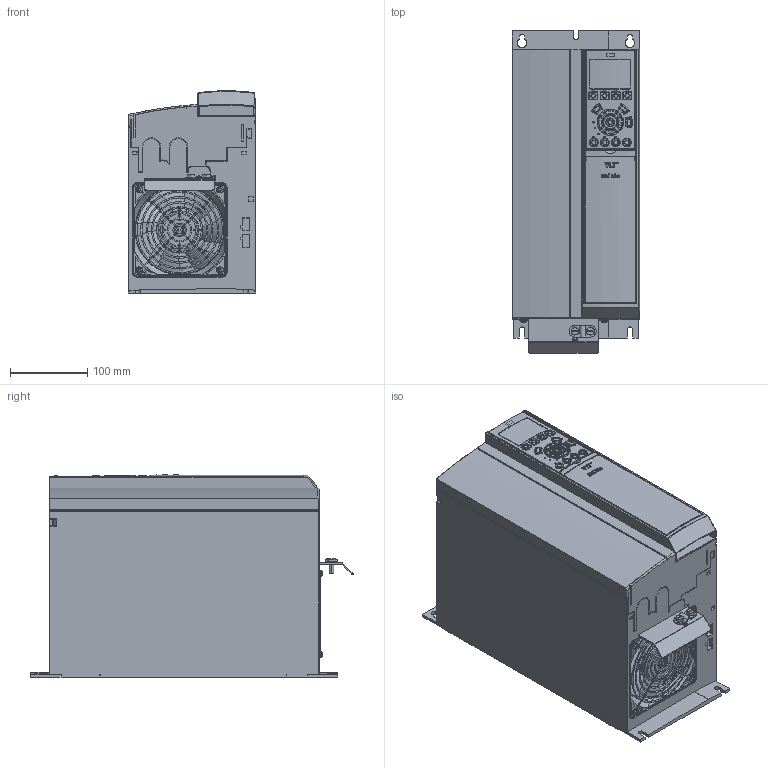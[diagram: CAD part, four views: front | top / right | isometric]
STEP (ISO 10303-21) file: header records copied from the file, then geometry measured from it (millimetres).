
FILE_DESCRIPTION((''),'2;1');
FILE_NAME('DANFOSS-FC100-B3-IP20-B-100','2007-06-14T',('janardhan.mankala'),('dan Drives A/S'),'PRO/ENGINEER BY PARAMETRIC TECHNOLOGY CORPORATION, 2006200','PRO/ENGINEER BY PARAMETRIC TECHNOLOGY CORPORATION, 2006200','');
FILE_SCHEMA(('CONFIG_CONTROL_DESIGN', 'GEOMETRIC_VALIDATION_PROPERTIES_MIM'));
Products named in the file (1): DANFOSS-FC100-B3-IP20-B-100
Bounding box: 165 x 419 x 262.51 mm (x, y, z)
Volume: 14047176 mm3; surface area: 529893.7 mm2
Topology: 2 solids, 19 shells, 3670 faces, 8835 edges, 5311 vertices
Faces by surface type: cylinder 1374, plane 953, bspline 543, torus 479, sphere 174, extrusion 80, cone 67
Entity records: 178597 total; most frequent: CARTESIAN_POINT 59018, ORIENTED_EDGE 17666, DIRECTION 15892, PRESENTATION_STYLE_ASSIGNMENT 10355, STYLED_ITEM 9064, CURVE_STYLE 8833, EDGE_CURVE 8833, AXIS2_PLACEMENT_3D 6105
